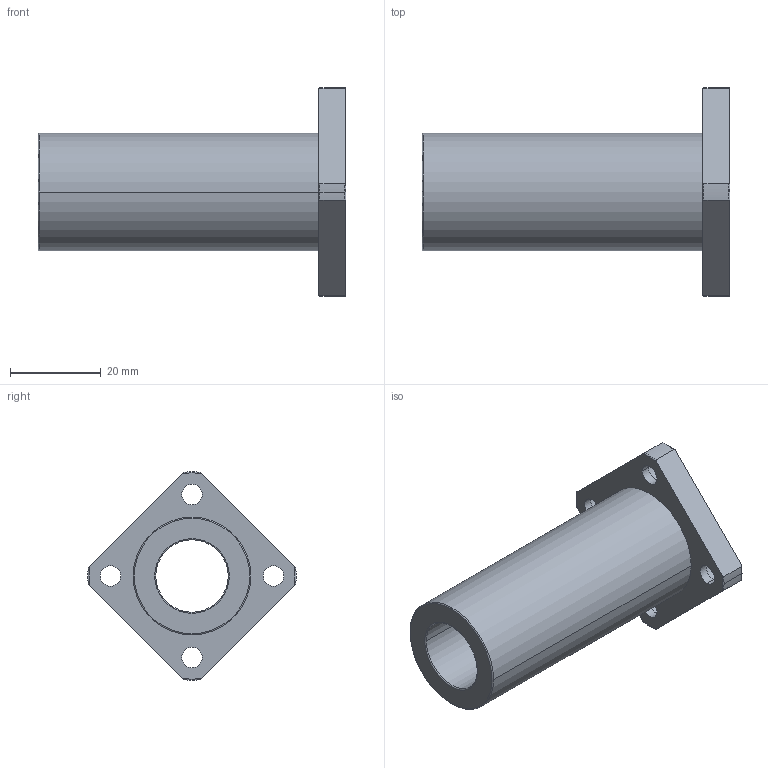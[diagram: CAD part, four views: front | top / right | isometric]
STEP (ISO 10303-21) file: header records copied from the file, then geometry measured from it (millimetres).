
FILE_DESCRIPTION(('FreeCAD Model'),'2;1');
FILE_NAME('Open CASCADE Shape Model','2021-05-03T15:01:42',('Author'),( ''),'Open CASCADE STEP processor 7.5','FreeCAD','Unknown');
FILE_SCHEMA(('AUTOMOTIVE_DESIGN { 1 0 10303 214 1 1 1 1 }'));
Length unit declared in the file: millimetre
Products named in the file (1): linear_lmek16luu
Bounding box: 68 x 46 x 46 mm (x, y, z)
Volume: 25671.8 mm3; surface area: 11652.8 mm2
Topology: 1 solids, 1 shells, 55 faces, 147 edges, 99 vertices
Faces by surface type: cylinder 26, torus 18, plane 11
Entity records: 4837 total; most frequent: CARTESIAN_POINT 1912, DIRECTION 560, ORIENTED_EDGE 294, PCURVE 294, DEFINITIONAL_REPRESENTATION 294, LINE 245, VECTOR 245, AXIS2_PLACEMENT_3D 149
